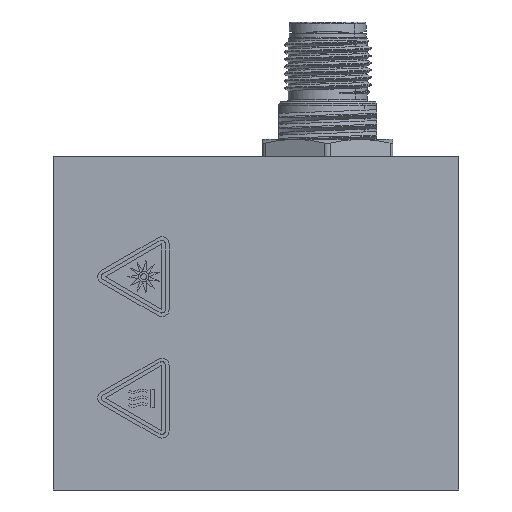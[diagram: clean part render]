
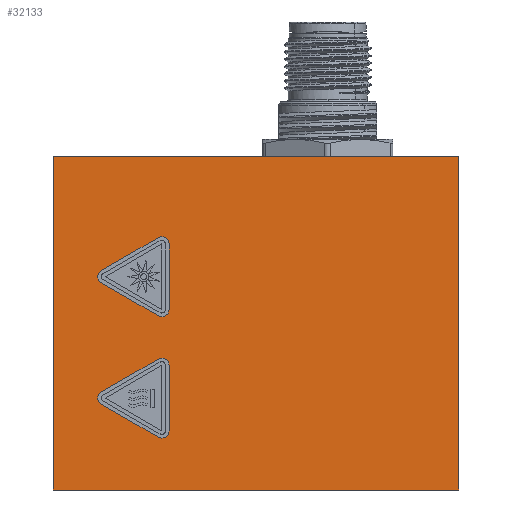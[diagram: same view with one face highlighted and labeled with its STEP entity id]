
A CAD part, left-side view. The second image highlights one B-rep face of the part: STEP entity #32133.
In plain terms, the highlighted planar face has unit normal (-1, 0, 0).
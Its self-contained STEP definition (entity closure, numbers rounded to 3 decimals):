
#875 = DIRECTION ( 'NONE',  ( 0., 1., 0. ) ) ;
#1326 = CARTESIAN_POINT ( 'NONE',  ( -23., 28., 46. ) ) ;
#1447 = LINE ( 'NONE', #1326, #57105 ) ;
#5571 = DIRECTION ( 'NONE',  ( 0., 0., -1. ) ) ;
#6101 = ORIENTED_EDGE ( 'NONE', *, *, #8302, .T. ) ;
#6370 = EDGE_CURVE ( 'NONE', #16148, #54566, #43501, .T. ) ;
#6804 = ORIENTED_EDGE ( 'NONE', *, *, #6370, .F. ) ;
#8302 = EDGE_CURVE ( 'NONE', #15380, #45219, #28712, .T. ) ;
#8495 = CARTESIAN_POINT ( 'NONE',  ( -23., -28., 46. ) ) ;
#9518 = DIRECTION ( 'NONE',  ( 0., -1., 0. ) ) ;
#10278 = ORIENTED_EDGE ( 'NONE', *, *, #15424, .T. ) ;
#12431 = AXIS2_PLACEMENT_3D ( 'NONE', #14427, #14644, #875 ) ;
#13116 = VECTOR ( 'NONE', #16609, 1000. ) ;
#14427 = CARTESIAN_POINT ( 'NONE',  ( -23., 28., 46. ) ) ;
#14644 = DIRECTION ( 'NONE',  ( 1., 0., 0. ) ) ;
#15380 = VERTEX_POINT ( 'NONE', #38092 ) ;
#15424 = EDGE_CURVE ( 'NONE', #16148, #15380, #1447, .T. ) ;
#15426 = LINE ( 'NONE', #23918, #21911 ) ;
#15895 = EDGE_LOOP ( 'NONE', ( #6101, #42125, #6804, #10278 ) ) ;
#16148 = VERTEX_POINT ( 'NONE', #58647 ) ;
#16454 = VECTOR ( 'NONE', #9518, 1000. ) ;
#16609 = DIRECTION ( 'NONE',  ( 0., -1., 0. ) ) ;
#19295 = DIRECTION ( 'NONE',  ( 0., 0., -1. ) ) ;
#21911 = VECTOR ( 'NONE', #19295, 1000. ) ;
#23918 = CARTESIAN_POINT ( 'NONE',  ( -23., -28., 46. ) ) ;
#27101 = CARTESIAN_POINT ( 'NONE',  ( -23., -28., 0. ) ) ;
#28712 = LINE ( 'NONE', #50866, #16454 ) ;
#32133 = ADVANCED_FACE ( 'NONE', ( #55585 ), #33227, .F. ) ;
#33227 = PLANE ( 'NONE',  #12431 ) ;
#38092 = CARTESIAN_POINT ( 'NONE',  ( -23., 28., 0. ) ) ;
#42125 = ORIENTED_EDGE ( 'NONE', *, *, #45845, .F. ) ;
#43501 = LINE ( 'NONE', #47902, #13116 ) ;
#45219 = VERTEX_POINT ( 'NONE', #27101 ) ;
#45845 = EDGE_CURVE ( 'NONE', #54566, #45219, #15426, .T. ) ;
#47902 = CARTESIAN_POINT ( 'NONE',  ( -23., 28., 46. ) ) ;
#50866 = CARTESIAN_POINT ( 'NONE',  ( -23., 28., 0. ) ) ;
#54566 = VERTEX_POINT ( 'NONE', #8495 ) ;
#55585 = FACE_OUTER_BOUND ( 'NONE', #15895, .T. ) ;
#57105 = VECTOR ( 'NONE', #5571, 1000. ) ;
#58647 = CARTESIAN_POINT ( 'NONE',  ( -23., 28., 46. ) ) ;
